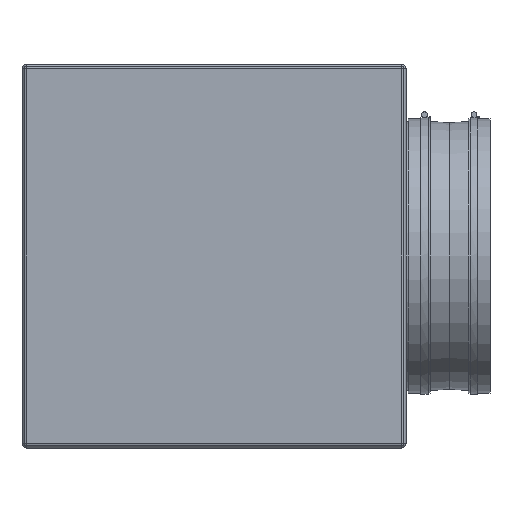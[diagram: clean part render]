
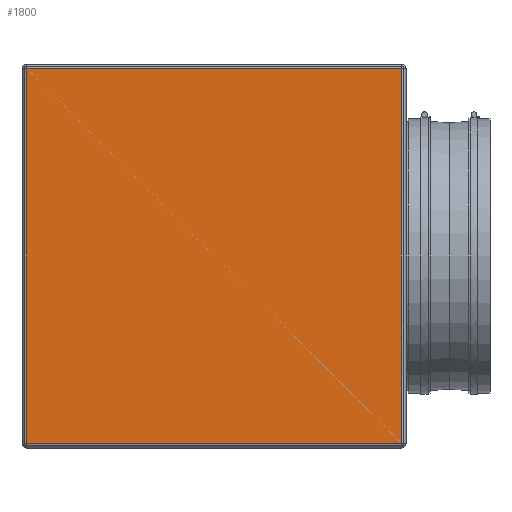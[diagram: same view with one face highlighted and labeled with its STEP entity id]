
A CAD part, left-side view. The second image highlights one B-rep face of the part: STEP entity #1800.
In plain terms, the highlighted planar face has unit normal (-1, 0, 0).
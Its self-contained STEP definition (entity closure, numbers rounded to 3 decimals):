
#153=PLANE('',#2008);
#248=FACE_OUTER_BOUND('',#411,.T.);
#411=EDGE_LOOP('',(#1413,#1414,#1415,#1416));
#553=LINE('',#2864,#647);
#556=LINE('',#2897,#650);
#559=LINE('',#2901,#653);
#575=LINE('',#2939,#669);
#647=VECTOR('',#2316,10.);
#650=VECTOR('',#2355,10.);
#653=VECTOR('',#2360,10.);
#669=VECTOR('',#2408,10.);
#887=VERTEX_POINT('',#2852);
#888=VERTEX_POINT('',#2856);
#891=VERTEX_POINT('',#2866);
#902=VERTEX_POINT('',#2893);
#1061=EDGE_CURVE('',#888,#887,#553,.T.);
#1076=EDGE_CURVE('',#891,#902,#556,.T.);
#1079=EDGE_CURVE('',#902,#888,#559,.T.);
#1101=EDGE_CURVE('',#887,#891,#575,.T.);
#1413=ORIENTED_EDGE('',*,*,#1076,.F.);
#1414=ORIENTED_EDGE('',*,*,#1101,.F.);
#1415=ORIENTED_EDGE('',*,*,#1061,.F.);
#1416=ORIENTED_EDGE('',*,*,#1079,.F.);
#1800=ADVANCED_FACE('',(#248),#153,.T.);
#2008=AXIS2_PLACEMENT_3D('',#2941,#2411,#2412);
#2316=DIRECTION('',(0.,1.,0.));
#2355=DIRECTION('',(0.,-1.,0.));
#2360=DIRECTION('',(0.,0.,-1.));
#2408=DIRECTION('',(0.,0.,1.));
#2411=DIRECTION('center_axis',(-1.,0.,0.));
#2412=DIRECTION('ref_axis',(0.,0.,1.));
#2852=CARTESIAN_POINT('',(-400.,390.,-390.));
#2856=CARTESIAN_POINT('',(-400.,-390.,-390.));
#2864=CARTESIAN_POINT('',(-400.,0.,-390.));
#2866=CARTESIAN_POINT('',(-400.,390.,390.));
#2893=CARTESIAN_POINT('',(-400.,-390.,390.));
#2897=CARTESIAN_POINT('',(-400.,0.,390.));
#2901=CARTESIAN_POINT('',(-400.,-390.,-200.));
#2939=CARTESIAN_POINT('',(-400.,390.,-200.));
#2941=CARTESIAN_POINT('Origin',(-400.,0.,-400.));
